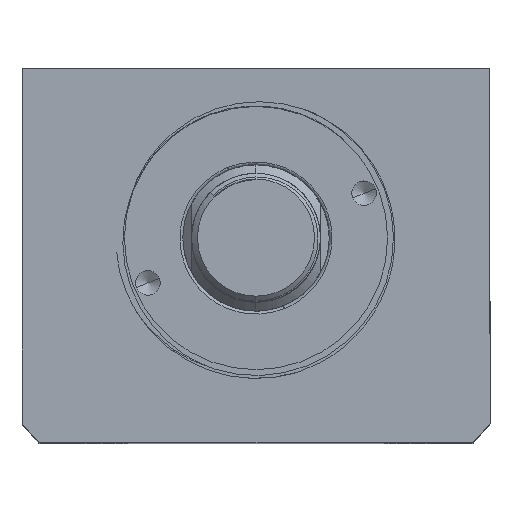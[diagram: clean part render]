
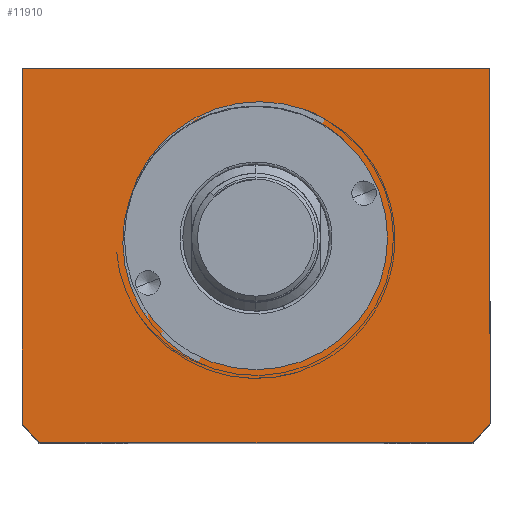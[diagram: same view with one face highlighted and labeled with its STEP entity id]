
A CAD part, top view. The second image highlights one B-rep face of the part: STEP entity #11910.
In plain terms, the highlighted planar face has unit normal (0, 0, 1).
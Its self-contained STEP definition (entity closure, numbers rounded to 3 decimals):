
#278 = PLANE ( 'NONE',  #2353 ) ;
#692 = DIRECTION ( 'NONE',  ( -1., 0., 0. ) ) ;
#699 = CARTESIAN_POINT ( 'NONE',  ( -40., -75.507, 75. ) ) ;
#1446 = ORIENTED_EDGE ( 'NONE', *, *, #9328, .T. ) ;
#1694 = CARTESIAN_POINT ( 'NONE',  ( 0., 0., 75. ) ) ;
#1750 = DIRECTION ( 'NONE',  ( 0., -1., 0. ) ) ;
#2126 = EDGE_CURVE ( 'NONE', #15750, #2232, #7623, .T. ) ;
#2157 = CARTESIAN_POINT ( 'NONE',  ( 40., -11.507, 75. ) ) ;
#2232 = VERTEX_POINT ( 'NONE', #3537 ) ;
#2245 = EDGE_CURVE ( 'NONE', #15965, #9921, #9496, .T. ) ;
#2353 = AXIS2_PLACEMENT_3D ( 'NONE', #1694, #7017, #16281 ) ;
#2440 = ORIENTED_EDGE ( 'NONE', *, *, #11639, .F. ) ;
#2567 = CIRCLE ( 'NONE', #2685, 22.5 ) ;
#2685 = AXIS2_PLACEMENT_3D ( 'NONE', #3958, #13193, #5271 ) ;
#3190 = FACE_OUTER_BOUND ( 'NONE', #14706, .T. ) ;
#3537 = CARTESIAN_POINT ( 'NONE',  ( -40., -11.507, 75. ) ) ;
#3705 = VECTOR ( 'NONE', #692, 1000. ) ;
#3810 = DIRECTION ( 'NONE',  ( 0., 1., 0. ) ) ;
#3812 = CARTESIAN_POINT ( 'NONE',  ( 0., -40.507, 75. ) ) ;
#3873 = CARTESIAN_POINT ( 'NONE',  ( 37.094, -75.507, 75. ) ) ;
#3958 = CARTESIAN_POINT ( 'NONE',  ( 0., -40.507, 75. ) ) ;
#4541 = VERTEX_POINT ( 'NONE', #16756 ) ;
#4754 = LINE ( 'NONE', #12265, #10960 ) ;
#5073 = CARTESIAN_POINT ( 'NONE',  ( -37.094, -75.507, 75. ) ) ;
#5126 = DIRECTION ( 'NONE',  ( 1., 0., 0. ) ) ;
#5271 = DIRECTION ( 'NONE',  ( 1., 0., 0. ) ) ;
#5364 = LINE ( 'NONE', #6414, #6195 ) ;
#5730 = ORIENTED_EDGE ( 'NONE', *, *, #14337, .F. ) ;
#5894 = ORIENTED_EDGE ( 'NONE', *, *, #7879, .T. ) ;
#5973 = VECTOR ( 'NONE', #11284, 1000. ) ;
#6195 = VECTOR ( 'NONE', #3810, 1000. ) ;
#6406 = DIRECTION ( 'NONE',  ( 0., 0., 1. ) ) ;
#6414 = CARTESIAN_POINT ( 'NONE',  ( 40., -11.507, 75. ) ) ;
#6567 = EDGE_LOOP ( 'NONE', ( #5730, #2440 ) ) ;
#6823 = CIRCLE ( 'NONE', #8260, 51. ) ;
#6914 = CIRCLE ( 'NONE', #9043, 22.5 ) ;
#7017 = DIRECTION ( 'NONE',  ( 0., 0., 1. ) ) ;
#7141 = EDGE_CURVE ( 'NONE', #9510, #10934, #6823, .T. ) ;
#7505 = CARTESIAN_POINT ( 'NONE',  ( 0., -40.507, 75. ) ) ;
#7543 = EDGE_CURVE ( 'NONE', #2232, #9510, #4754, .T. ) ;
#7623 = LINE ( 'NONE', #8603, #3705 ) ;
#7879 = EDGE_CURVE ( 'NONE', #9921, #15750, #5364, .T. ) ;
#8260 = AXIS2_PLACEMENT_3D ( 'NONE', #3812, #13061, #5126 ) ;
#8603 = CARTESIAN_POINT ( 'NONE',  ( -40., -11.507, 75. ) ) ;
#8831 = DIRECTION ( 'NONE',  ( 1., 0., 0. ) ) ;
#9043 = AXIS2_PLACEMENT_3D ( 'NONE', #14331, #6406, #15662 ) ;
#9328 = EDGE_CURVE ( 'NONE', #10934, #15965, #14241, .T. ) ;
#9496 = CIRCLE ( 'NONE', #14368, 51. ) ;
#9502 = CARTESIAN_POINT ( 'NONE',  ( 40., -72.145, 75. ) ) ;
#9510 = VERTEX_POINT ( 'NONE', #14131 ) ;
#9921 = VERTEX_POINT ( 'NONE', #9502 ) ;
#10583 = CARTESIAN_POINT ( 'NONE',  ( 22.5, -40.507, 75. ) ) ;
#10934 = VERTEX_POINT ( 'NONE', #5073 ) ;
#10960 = VECTOR ( 'NONE', #1750, 1000. ) ;
#11284 = DIRECTION ( 'NONE',  ( 1., 0., 0. ) ) ;
#11639 = EDGE_CURVE ( 'NONE', #4541, #15985, #2567, .T. ) ;
#11910 = ADVANCED_FACE ( 'NONE', ( #14570, #3190 ), #278, .T. ) ;
#11983 = ORIENTED_EDGE ( 'NONE', *, *, #2245, .T. ) ;
#12165 = ORIENTED_EDGE ( 'NONE', *, *, #2126, .T. ) ;
#12265 = CARTESIAN_POINT ( 'NONE',  ( -40., -11.507, 75. ) ) ;
#12968 = ORIENTED_EDGE ( 'NONE', *, *, #7141, .T. ) ;
#13061 = DIRECTION ( 'NONE',  ( 0., 0., 1. ) ) ;
#13193 = DIRECTION ( 'NONE',  ( 0., 0., 1. ) ) ;
#14131 = CARTESIAN_POINT ( 'NONE',  ( -40., -72.145, 75. ) ) ;
#14216 = ORIENTED_EDGE ( 'NONE', *, *, #7543, .T. ) ;
#14241 = LINE ( 'NONE', #699, #5973 ) ;
#14331 = CARTESIAN_POINT ( 'NONE',  ( 0., -40.507, 75. ) ) ;
#14337 = EDGE_CURVE ( 'NONE', #15985, #4541, #6914, .T. ) ;
#14368 = AXIS2_PLACEMENT_3D ( 'NONE', #7505, #16790, #8831 ) ;
#14570 = FACE_BOUND ( 'NONE', #6567, .T. ) ;
#14706 = EDGE_LOOP ( 'NONE', ( #14216, #12968, #1446, #11983, #5894, #12165 ) ) ;
#15662 = DIRECTION ( 'NONE',  ( 1., 0., 0. ) ) ;
#15750 = VERTEX_POINT ( 'NONE', #2157 ) ;
#15965 = VERTEX_POINT ( 'NONE', #3873 ) ;
#15985 = VERTEX_POINT ( 'NONE', #10583 ) ;
#16281 = DIRECTION ( 'NONE',  ( 1., 0., 0. ) ) ;
#16756 = CARTESIAN_POINT ( 'NONE',  ( -22.5, -40.507, 75. ) ) ;
#16790 = DIRECTION ( 'NONE',  ( 0., 0., 1. ) ) ;
